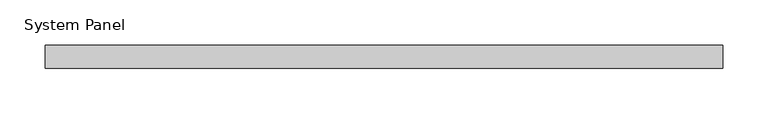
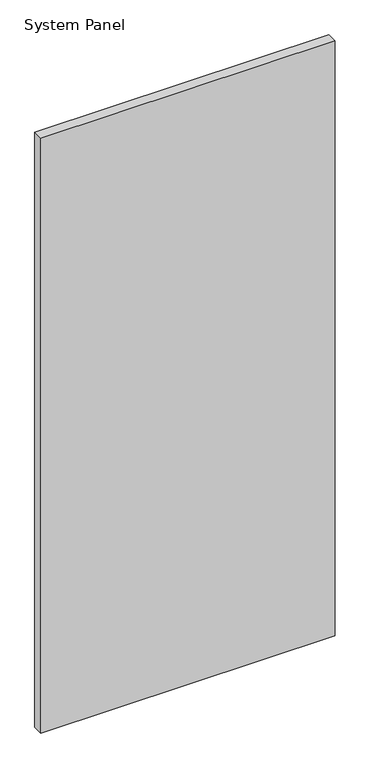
"""IFC4 building model written with IfcOpenShell, lengths in millimetres: plate geometry, System Panel : Spandral Panel."""

from ifc_helpers import new_model, si_unit, origin, origin_with_axes, place, context, project, spatial, polyline, outline, extrude, source, transform, mapped, element, save


def system_panel_731fbf32(model_context):
    return source(origin(), model_context, "Body", "SweptSolid", [
        extrude(outline(polyline([(374.65, 19.05), (-374.65, 19.05), (-374.65, 44.45), (374.65, 44.45), (374.65, 19.05)])), origin_with_axes(), (0.0, 0.0, 1.0), 1600.2),
    ])


if __name__ == "__main__":
    model = new_model("IFC4")
    model_context = context("Model", 3, world=origin())
    ifc_project = project(units=[si_unit("LENGTHUNIT", "METRE", prefix="MILLI")], contexts=[model_context])
    site = spatial("IfcSite", under=ifc_project)
    building = spatial("IfcBuilding", under=site)
    placement = place(None, origin())
    system_panel_shape = system_panel_731fbf32(model_context)
    element("IfcPlate", 1, ObjectType="System Panel : Spandral Panel", at=placement, inside=building, context=model_context, shape_type="MappedRepresentation", body=[
        mapped(system_panel_shape, transform((0.0, 0.0, 0.0), x_axis=(1.0, 0.0, 0.0), y_axis=(0.0, 1.0, 0.0), z_axis=(0.0, 0.0, 1.0))),
    ])
    save(model, "model.ifc")
